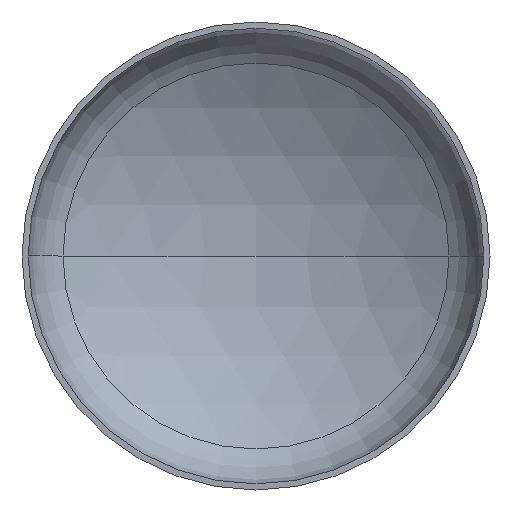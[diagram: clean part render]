
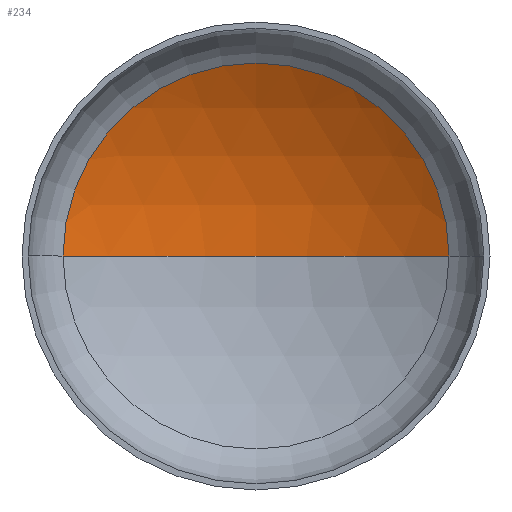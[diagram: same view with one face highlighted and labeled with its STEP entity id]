
A CAD part, front view. The second image highlights one B-rep face of the part: STEP entity #234.
In plain terms, the highlighted spherical face has radius 1040 mm.
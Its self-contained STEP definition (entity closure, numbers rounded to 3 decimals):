
#10 = DIRECTION ( 'NONE',  ( -1., 0., 0. ) ) ;
#11 = VERTEX_POINT ( 'NONE', #61 ) ;
#24 = AXIS2_PLACEMENT_3D ( 'NONE', #101, #311, #143 ) ;
#26 = CARTESIAN_POINT ( 'NONE',  ( 0., -664.799, 0. ) ) ;
#27 = AXIS2_PLACEMENT_3D ( 'NONE', #235, #393, #261 ) ;
#50 = VERTEX_POINT ( 'NONE', #279 ) ;
#56 = ORIENTED_EDGE ( 'NONE', *, *, #389, .F. ) ;
#57 = AXIS2_PLACEMENT_3D ( 'NONE', #26, #367, #10 ) ;
#61 = CARTESIAN_POINT ( 'NONE',  ( 536.095, 226.381, 0. ) ) ;
#81 = VERTEX_POINT ( 'NONE', #212 ) ;
#101 = CARTESIAN_POINT ( 'NONE',  ( 0., -664.799, 0. ) ) ;
#128 = EDGE_LOOP ( 'NONE', ( #56, #196, #142 ) ) ;
#142 = ORIENTED_EDGE ( 'NONE', *, *, #344, .T. ) ;
#143 = DIRECTION ( 'NONE',  ( -1., 0., 0. ) ) ;
#196 = ORIENTED_EDGE ( 'NONE', *, *, #346, .T. ) ;
#200 = CIRCLE ( 'NONE', #24, 1040. ) ;
#212 = CARTESIAN_POINT ( 'NONE',  ( 0., 375.201, 0. ) ) ;
#219 = DIRECTION ( 'NONE',  ( 0., 0., 1. ) ) ;
#223 = SPHERICAL_SURFACE ( 'NONE', #57, 1040. ) ;
#226 = AXIS2_PLACEMENT_3D ( 'NONE', #357, #219, #379 ) ;
#232 = FACE_OUTER_BOUND ( 'NONE', #128, .T. ) ;
#234 = ADVANCED_FACE ( 'NONE', ( #232 ), #223, .F. ) ;
#235 = CARTESIAN_POINT ( 'NONE',  ( 0., 226.381, 0. ) ) ;
#261 = DIRECTION ( 'NONE',  ( 1., 0., 0. ) ) ;
#279 = CARTESIAN_POINT ( 'NONE',  ( -536.095, 226.381, 0. ) ) ;
#311 = DIRECTION ( 'NONE',  ( 0., 0., -1. ) ) ;
#344 = EDGE_CURVE ( 'NONE', #11, #50, #383, .T. ) ;
#346 = EDGE_CURVE ( 'NONE', #81, #11, #200, .T. ) ;
#357 = CARTESIAN_POINT ( 'NONE',  ( 0., -664.799, 0. ) ) ;
#363 = CIRCLE ( 'NONE', #226, 1040. ) ;
#367 = DIRECTION ( 'NONE',  ( 0., 0., -1. ) ) ;
#379 = DIRECTION ( 'NONE',  ( 1., 0., 0. ) ) ;
#383 = CIRCLE ( 'NONE', #27, 536.095 ) ;
#389 = EDGE_CURVE ( 'NONE', #81, #50, #363, .T. ) ;
#393 = DIRECTION ( 'NONE',  ( 0., -1., 0. ) ) ;
